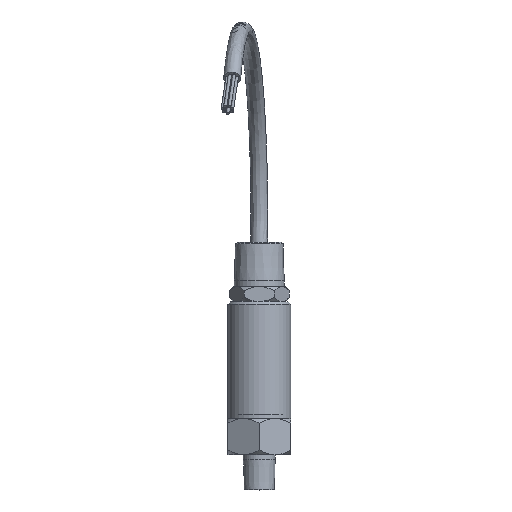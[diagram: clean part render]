
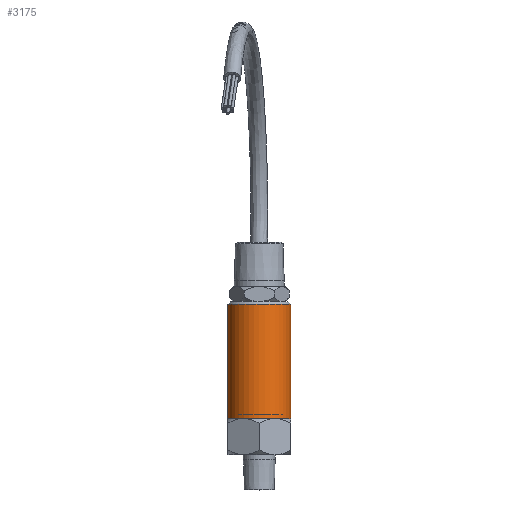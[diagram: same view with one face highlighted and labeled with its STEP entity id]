
A CAD part, top view. The second image highlights one B-rep face of the part: STEP entity #3175.
In plain terms, the highlighted cylindrical face has radius 13.43 mm (diameter 26.861 mm), a full revolution.
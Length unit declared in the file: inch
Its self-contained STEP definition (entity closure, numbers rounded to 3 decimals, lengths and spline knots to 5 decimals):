
#291=LINE('',#5383,#459);
#459=VECTOR('',#4171,0.52875);
#564=CYLINDRICAL_SURFACE('',#3501,0.52875);
#746=FACE_OUTER_BOUND('',#984,.T.);
#984=EDGE_LOOP('',(#2476,#2477,#2478,#2479,#2480));
#1174=CIRCLE('',#3359,0.52875);
#1240=CIRCLE('',#3499,0.52875);
#1241=CIRCLE('',#3500,0.52875);
#1393=VERTEX_POINT('',#4814);
#1504=VERTEX_POINT('',#5377);
#1505=VERTEX_POINT('',#5378);
#1677=EDGE_CURVE('',#1393,#1393,#1174,.T.);
#1854=EDGE_CURVE('',#1504,#1505,#1240,.T.);
#1855=EDGE_CURVE('',#1505,#1504,#1241,.T.);
#1857=EDGE_CURVE('',#1393,#1505,#291,.T.);
#2476=ORIENTED_EDGE('',*,*,#1677,.F.);
#2477=ORIENTED_EDGE('',*,*,#1857,.T.);
#2478=ORIENTED_EDGE('',*,*,#1854,.F.);
#2479=ORIENTED_EDGE('',*,*,#1855,.F.);
#2480=ORIENTED_EDGE('',*,*,#1857,.F.);
#3175=ADVANCED_FACE('',(#746),#564,.T.);
#3359=AXIS2_PLACEMENT_3D('',#4815,#3805,#3806);
#3499=AXIS2_PLACEMENT_3D('',#5379,#4164,#4165);
#3500=AXIS2_PLACEMENT_3D('',#5380,#4166,#4167);
#3501=AXIS2_PLACEMENT_3D('',#5382,#4169,#4170);
#3805=DIRECTION('center_axis',(0.,-1.,0.));
#3806=DIRECTION('ref_axis',(-1.,0.,0.));
#4164=DIRECTION('center_axis',(0.,1.,0.));
#4165=DIRECTION('ref_axis',(1.,0.,0.));
#4166=DIRECTION('center_axis',(0.,1.,0.));
#4167=DIRECTION('ref_axis',(1.,0.,0.));
#4169=DIRECTION('center_axis',(0.,-1.,0.));
#4170=DIRECTION('ref_axis',(-1.,0.,0.));
#4171=DIRECTION('',(0.,1.,0.));
#4814=CARTESIAN_POINT('',(0.52875,0.30512,0.));
#4815=CARTESIAN_POINT('Origin',(0.,0.30512,0.));
#5377=CARTESIAN_POINT('',(-0.52875,2.22512,0.));
#5378=CARTESIAN_POINT('',(0.52875,2.22512,0.));
#5379=CARTESIAN_POINT('Origin',(0.,2.22512,
0.));
#5380=CARTESIAN_POINT('Origin',(0.,2.22512,
0.));
#5382=CARTESIAN_POINT('Origin',(0.,2.27512,0.));
#5383=CARTESIAN_POINT('',(0.52875,2.27512,0.));
